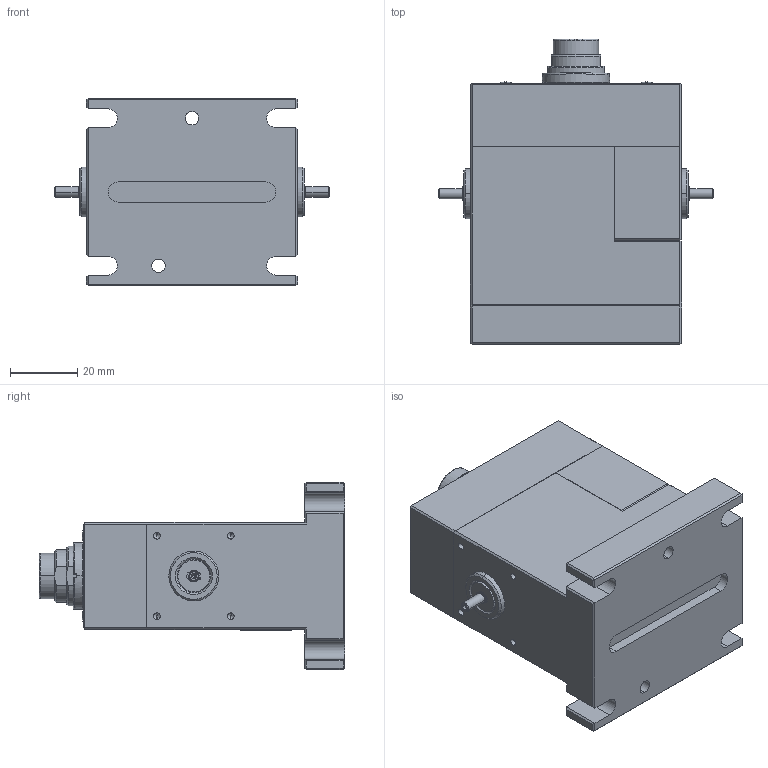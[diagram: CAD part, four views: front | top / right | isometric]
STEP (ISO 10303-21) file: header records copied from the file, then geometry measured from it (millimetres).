
FILE_DESCRIPTION (( 'STEP AP214' ), '1' );
FILE_NAME ('DRVL-F.STEP', '2020-08-28T09:24:23', ( '' ), ( '' ), 'SwSTEP 2.0', 'SolidWorks 2020', '' );
FILE_SCHEMA (( 'AUTOMOTIVE_DESIGN' ));
Length unit declared in the file: millimetre
Products named in the file (1): DRVL-F
Bounding box: 82 x 91.1 x 56 mm (x, y, z)
Volume: 126477.3 mm3; surface area: 49744.3 mm2
Topology: 26 solids, 30 shells, 3347 faces, 8520 edges, 5505 vertices
Faces by surface type: plane 1605, bspline 924, cylinder 441, cone 217, torus 146, sphere 14
Entity records: 177943 total; most frequent: CARTESIAN_POINT 65328, ORIENTED_EDGE 16960, DIRECTION 12888, EDGE_CURVE 8480, VERTEX_POINT 5503, VECTOR 5012, LINE 5012, AXIS2_PLACEMENT_3D 3938
